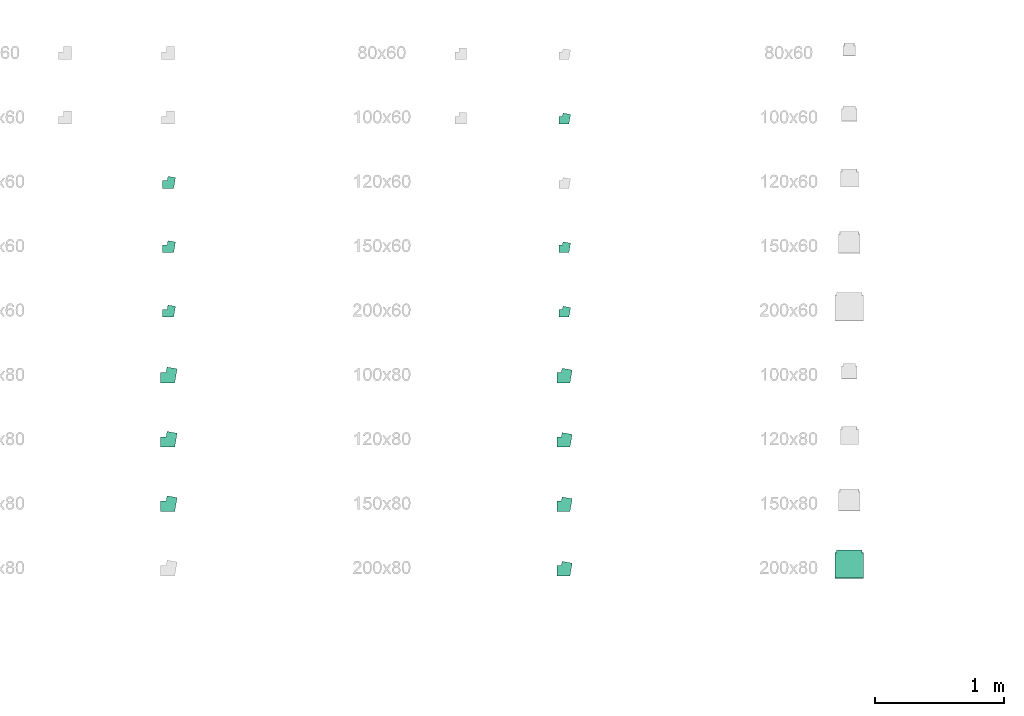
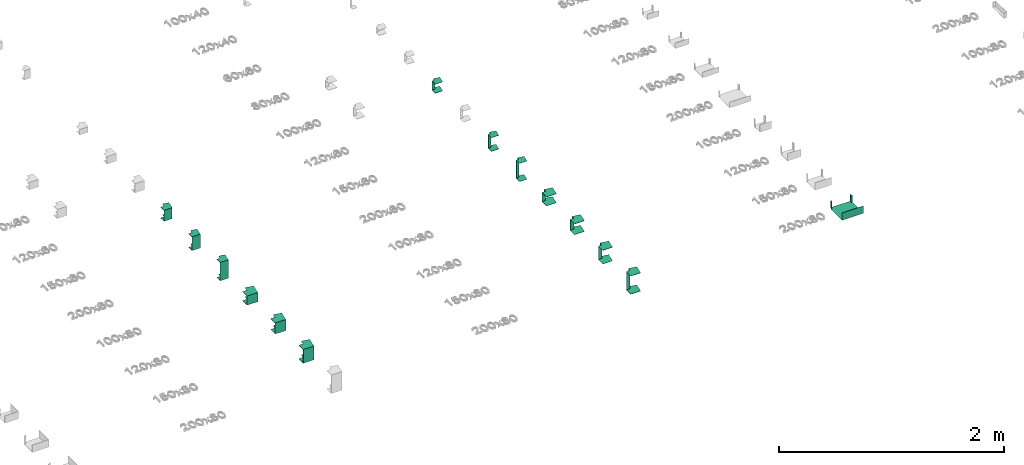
# One storey, part 6 of 71: 14 flow fittings.
"""IFC2X3 building model written with IfcOpenShell, lengths in millimetres."""

from ifc_helpers import new_model, entity, si_unit, converted_unit, derived_unit, direction, frame, origin, place, context, subcontext, project, spatial, faceted_brep, source, transform, mapped, material, type_object, type_shapes, element, save


model = new_model("IFC2X3")

# Units and contexts
model_context = context("Model", 3, precision=0.01, world=origin(), true_north=direction((6.12303176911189e-17, 1.0)))
body_context = subcontext(model_context, "Body", "Model", "MODEL_VIEW")
ifc_project = project(units=[si_unit("LENGTHUNIT", "METRE", prefix="MILLI"), si_unit("AREAUNIT", "SQUARE_METRE"), si_unit("VOLUMEUNIT", "CUBIC_METRE"), converted_unit("PLANEANGLEUNIT", "DEGREE", entity("IfcRatioMeasure", 0.0174532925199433), si_unit("PLANEANGLEUNIT", "RADIAN"), dimensions=[0, 0, 0, 0, 0, 0, 0]), si_unit("MASSUNIT", "GRAM", prefix="KILO"), derived_unit("MASSDENSITYUNIT", [(si_unit("MASSUNIT", "GRAM", prefix="KILO"), 1), (si_unit("LENGTHUNIT", "METRE"), -3)]), si_unit("TIMEUNIT", "SECOND"), si_unit("FREQUENCYUNIT", "HERTZ"), si_unit("THERMODYNAMICTEMPERATUREUNIT", "DEGREE_CELSIUS"), derived_unit("THERMALTRANSMITTANCEUNIT", [(si_unit("MASSUNIT", "GRAM", prefix="KILO"), 1), (si_unit("THERMODYNAMICTEMPERATUREUNIT", "KELVIN"), -1), (si_unit("TIMEUNIT", "SECOND"), -3)]), derived_unit("VOLUMETRICFLOWRATEUNIT", [(si_unit("LENGTHUNIT", "METRE"), 3), (si_unit("TIMEUNIT", "SECOND"), -1)]), si_unit("ELECTRICCURRENTUNIT", "AMPERE"), si_unit("ELECTRICVOLTAGEUNIT", "VOLT"), si_unit("POWERUNIT", "WATT"), si_unit("FORCEUNIT", "NEWTON", prefix="KILO"), si_unit("ILLUMINANCEUNIT", "LUX"), si_unit("LUMINOUSFLUXUNIT", "LUMEN"), si_unit("LUMINOUSINTENSITYUNIT", "CANDELA"), derived_unit("USERDEFINED", [(si_unit("MASSUNIT", "GRAM", prefix="KILO"), -1), (si_unit("LENGTHUNIT", "METRE"), -2), (si_unit("TIMEUNIT", "SECOND"), 3), (si_unit("LUMINOUSFLUXUNIT", "LUMEN"), 1)]), derived_unit("LINEARVELOCITYUNIT", [(si_unit("LENGTHUNIT", "METRE"), 1), (si_unit("TIMEUNIT", "SECOND"), -1)]), si_unit("PRESSUREUNIT", "PASCAL"), derived_unit("USERDEFINED", [(si_unit("LENGTHUNIT", "METRE"), -2), (si_unit("MASSUNIT", "GRAM", prefix="KILO"), 1), (si_unit("TIMEUNIT", "SECOND"), -2)])], contexts=[model_context])

# Site, building, storey
site_placement = place(None, origin())
site = spatial("IfcSite", under=ifc_project, at=site_placement, Name="Default", CompositionType="ELEMENT")
building_placement = place(site_placement, origin())
building = spatial("IfcBuilding", under=site, at=building_placement, Name="Наименование здания", CompositionType="ELEMENT")
storey_placement = place(building_placement, origin())
storey = spatial("IfcBuildingStorey", under=building, at=storey_placement, Name="Этаж 01", CompositionType="ELEMENT", Elevation=0.0)

# Flow fittings
ifc_material = material(Name="DKC_Пластик_Белый")
cable_carrier_fitting_type_1 = type_object("IfcCableCarrierFittingType", Name="Угол внутренний_DKC", PredefinedType="NOTDEFINED", material=ifc_material)
shared_shape_1 = source(origin(), body_context, "Body", "Brep", [
    faceted_brep([(-59.5414760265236, -30.0, 60.0), (-59.5414760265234, 30.0, 60.0), (-59.5414760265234, 30.0, 57.5000000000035), (-59.5414760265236, -27.4999999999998, 57.5000000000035), (-59.5414760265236, -27.4999999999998, -57.4999999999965), (-59.5414760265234, 30.0, -57.4999999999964), (-59.5414760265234, 30.0, -60.0), (-59.5414760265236, -30.0, -60.0), (39.8835013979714, 53.4274618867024, 60.0), (39.8835013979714, 53.4274618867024, -60.0), (-19.2049637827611, 63.8463525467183, -60.0), (-19.2049637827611, 63.8463525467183, -57.4999999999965), (37.4214820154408, 53.8615823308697, -57.4999999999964), (37.4214820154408, 53.8615823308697, 57.5000000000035), (-19.2049637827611, 63.8463525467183, 57.5000000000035), (-19.2049637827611, 63.8463525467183, 60.0), (25.172988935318, -30.0, 60.0), (-25.1729889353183, 30.0, 60.0), (-25.1729889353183, 30.0, 57.5000000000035), (23.0752398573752, -27.5000000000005, 57.5000000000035), (23.0752398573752, -27.5000000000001, -57.4999999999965), (-25.1729889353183, 30.0, -57.4999999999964), (-25.1729889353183, 30.0, -60.0), (25.1729889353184, -30.0, -60.0)], [[[0, 1, 2, 3, 4, 5, 6, 7]], [[8, 9, 10, 11, 12, 13, 14, 15]], [[1, 0, 16, 8, 15, 17]], [[2, 1, 17, 18]], [[3, 2, 18, 14, 13, 19]], [[4, 3, 19, 20]], [[5, 4, 20, 12, 11, 21]], [[6, 5, 21, 22]], [[7, 6, 22, 10, 9, 23]], [[0, 7, 23, 16]], [[18, 17, 15, 14]], [[20, 19, 13, 12]], [[22, 21, 11, 10]], [[16, 23, 9, 8]]]),
])
type_shapes(cable_carrier_fitting_type_1, [shared_shape_1])
flow_fitting_1_placement = place(storey_placement, frame((16600.2023027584, -1439.2088172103, 0.0)))
element("IfcFlowFitting", 1, at=flow_fitting_1_placement, inside=storey, type_object=cable_carrier_fitting_type_1, material=ifc_material, Name="КНС_УголВнутренний_ILC_DKC:Угол внутренний_DKC", ObjectType="Угол внутренний_DKC", context=body_context, shape_type="MappedRepresentation", body=[
    mapped(shared_shape_1, transform((0.0, 0.0, 0.0), scale=1.0)),
])
cable_carrier_fitting_type_2 = type_object("IfcCableCarrierFittingType", Name="Угол внутренний_DKC", PredefinedType="NOTDEFINED", material=ifc_material)
shared_shape_2 = source(origin(), body_context, "Body", "Brep", [
    faceted_brep([(-59.5414760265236, -30.0, 75.0), (-59.5414760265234, 30.0, 75.0), (-59.5414760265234, 30.0, 72.5000000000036), (-59.5414760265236, -27.4999999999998, 72.5000000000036), (-59.5414760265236, -27.4999999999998, -72.4999999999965), (-59.5414760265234, 30.0, -72.4999999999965), (-59.5414760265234, 30.0, -75.0), (-59.5414760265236, -30.0, -75.0), (39.8835013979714, 53.4274618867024, 75.0), (39.8835013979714, 53.4274618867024, -75.0), (-19.2049637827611, 63.8463525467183, -75.0), (-19.2049637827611, 63.8463525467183, -72.4999999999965), (37.4214820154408, 53.8615823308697, -72.4999999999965), (37.4214820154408, 53.8615823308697, 72.5000000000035), (-19.2049637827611, 63.8463525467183, 72.5000000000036), (-19.2049637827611, 63.8463525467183, 75.0), (25.172988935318, -30.0, 75.0), (-25.1729889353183, 30.0, 75.0), (-25.1729889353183, 30.0, 72.5000000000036), (23.0752398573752, -27.5000000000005, 72.5000000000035), (23.0752398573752, -27.5000000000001, -72.4999999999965), (-25.1729889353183, 30.0, -72.4999999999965), (-25.1729889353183, 30.0, -75.0), (25.1729889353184, -30.0, -75.0)], [[[0, 1, 2, 3, 4, 5, 6, 7]], [[8, 9, 10, 11, 12, 13, 14, 15]], [[1, 0, 16, 8, 15, 17]], [[2, 1, 17, 18]], [[3, 2, 18, 14, 13, 19]], [[4, 3, 19, 20]], [[5, 4, 20, 12, 11, 21]], [[6, 5, 21, 22]], [[7, 6, 22, 10, 9, 23]], [[0, 7, 23, 16]], [[18, 17, 15, 14]], [[20, 19, 13, 12]], [[22, 21, 11, 10]], [[16, 23, 9, 8]]]),
])
type_shapes(cable_carrier_fitting_type_2, [shared_shape_2])
flow_fitting_2_placement = place(storey_placement, frame((16600.2023027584, -1939.2088172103, 0.0)))
element("IfcFlowFitting", 2, at=flow_fitting_2_placement, inside=storey, type_object=cable_carrier_fitting_type_2, material=ifc_material, Name="КНС_УголВнутренний_ILC_DKC:Угол внутренний_DKC", ObjectType="Угол внутренний_DKC", context=body_context, shape_type="MappedRepresentation", body=[
    mapped(shared_shape_2, transform((0.0, 0.0, 0.0), scale=1.0)),
])
cable_carrier_fitting_type_3 = type_object("IfcCableCarrierFittingType", Name="Угол внутренний_DKC", PredefinedType="NOTDEFINED", material=ifc_material)
shared_shape_3 = source(origin(), body_context, "Body", "Brep", [
    faceted_brep([(-59.5414760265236, -30.0, 100.0), (-59.5414760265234, 30.0, 100.0), (-59.5414760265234, 30.0, 97.5000000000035), (-59.5414760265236, -27.4999999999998, 97.5000000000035), (-59.5414760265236, -27.4999999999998, -97.4999999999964), (-59.5414760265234, 30.0, -97.4999999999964), (-59.5414760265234, 30.0, -100.0), (-59.5414760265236, -30.0, -100.0), (39.8835013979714, 53.4274618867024, 100.0), (39.8835013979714, 53.4274618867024, -100.0), (-19.2049637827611, 63.8463525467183, -100.0), (-19.2049637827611, 63.8463525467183, -97.4999999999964), (37.4214820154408, 53.8615823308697, -97.4999999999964), (37.4214820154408, 53.8615823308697, 97.5000000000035), (-19.2049637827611, 63.8463525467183, 97.5000000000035), (-19.2049637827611, 63.8463525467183, 100.0), (25.172988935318, -30.0, 100.0), (-25.1729889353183, 30.0, 100.0), (-25.1729889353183, 30.0, 97.5000000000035), (23.0752398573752, -27.5000000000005, 97.5000000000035), (23.0752398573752, -27.5000000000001, -97.4999999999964), (-25.1729889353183, 30.0, -97.4999999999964), (-25.1729889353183, 30.0, -100.0), (25.1729889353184, -30.0, -100.0)], [[[0, 1, 2, 3, 4, 5, 6, 7]], [[8, 9, 10, 11, 12, 13, 14, 15]], [[1, 0, 16, 8, 15, 17]], [[2, 1, 17, 18]], [[3, 2, 18, 14, 13, 19]], [[4, 3, 19, 20]], [[5, 4, 20, 12, 11, 21]], [[6, 5, 21, 22]], [[7, 6, 22, 10, 9, 23]], [[0, 7, 23, 16]], [[18, 17, 15, 14]], [[20, 19, 13, 12]], [[22, 21, 11, 10]], [[16, 23, 9, 8]]]),
])
type_shapes(cable_carrier_fitting_type_3, [shared_shape_3])
flow_fitting_3_placement = place(storey_placement, frame((16600.2023027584, -2439.2088172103, 0.0)))
element("IfcFlowFitting", 3, at=flow_fitting_3_placement, inside=storey, type_object=cable_carrier_fitting_type_3, material=ifc_material, Name="КНС_УголВнутренний_ILC_DKC:Угол внутренний_DKC", ObjectType="Угол внутренний_DKC", context=body_context, shape_type="MappedRepresentation", body=[
    mapped(shared_shape_3, transform((0.0, 0.0, 0.0), scale=1.0)),
])
cable_carrier_fitting_type_4 = type_object("IfcCableCarrierFittingType", Name="Угол внутренний_DKC", PredefinedType="NOTDEFINED", material=ifc_material)
shared_shape_4 = source(origin(), body_context, "Body", "Brep", [
    faceted_brep([(-76.3234686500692, -40.0, 50.0), (-76.323468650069, 40.0, 50.0), (-76.323468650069, 40.0, 47.5000000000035), (-76.3234686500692, -37.4999999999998, 47.5000000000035), (-76.3234686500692, -37.4999999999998, -47.4999999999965), (-76.323468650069, 40.0, -47.4999999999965), (-76.323468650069, 40.0, -50.0), (-76.3234686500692, -40.0, -50.0), (52.645741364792, 68.2180165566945, 50.0), (52.645741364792, 68.2180165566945, -50.0), (-26.1388788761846, 82.109870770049, -50.0), (-26.1388788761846, 82.109870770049, -47.4999999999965), (50.1837219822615, 68.6521370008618, -47.4999999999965), (50.1837219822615, 68.6521370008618, 47.5000000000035), (-26.1388788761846, 82.109870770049, 47.5000000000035), (-26.1388788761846, 82.109870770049, 50.0), (33.5639852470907, -40.0, 50.0), (-33.5639852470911, 40.0, 50.0), (-33.5639852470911, 40.0, 47.5000000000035), (31.4662361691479, -37.5000000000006, 47.5000000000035), (31.4662361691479, -37.5000000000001, -47.4999999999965), (-33.5639852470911, 40.0, -47.4999999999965), (-33.5639852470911, 40.0, -50.0), (33.5639852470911, -40.0, -50.0)], [[[0, 1, 2, 3, 4, 5, 6, 7]], [[8, 9, 10, 11, 12, 13, 14, 15]], [[1, 0, 16, 8, 15, 17]], [[2, 1, 17, 18]], [[3, 2, 18, 14, 13, 19]], [[4, 3, 19, 20]], [[5, 4, 20, 12, 11, 21]], [[6, 5, 21, 22]], [[7, 6, 22, 10, 9, 23]], [[0, 7, 23, 16]], [[18, 17, 15, 14]], [[20, 19, 13, 12]], [[22, 21, 11, 10]], [[16, 23, 9, 8]]]),
])
type_shapes(cable_carrier_fitting_type_4, [shared_shape_4])
flow_fitting_4_placement = place(storey_placement, frame((16600.2023027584, -2939.2088172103, 0.0)))
element("IfcFlowFitting", 4, at=flow_fitting_4_placement, inside=storey, type_object=cable_carrier_fitting_type_4, material=ifc_material, Name="КНС_УголВнутренний_ILC_DKC:Угол внутренний_DKC", ObjectType="Угол внутренний_DKC", context=body_context, shape_type="MappedRepresentation", body=[
    mapped(shared_shape_4, transform((0.0, 0.0, 0.0), scale=1.0)),
])
cable_carrier_fitting_type_5 = type_object("IfcCableCarrierFittingType", Name="Угол внутренний_DKC", PredefinedType="NOTDEFINED", material=ifc_material)
shared_shape_5 = source(origin(), body_context, "Body", "Brep", [
    faceted_brep([(-76.3234686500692, -40.0, 60.0), (-76.323468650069, 40.0, 60.0), (-76.323468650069, 40.0, 57.5000000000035), (-76.3234686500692, -37.4999999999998, 57.5000000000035), (-76.3234686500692, -37.4999999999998, -57.4999999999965), (-76.323468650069, 40.0, -57.4999999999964), (-76.323468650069, 40.0, -60.0), (-76.3234686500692, -40.0, -60.0), (52.645741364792, 68.2180165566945, 60.0), (52.645741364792, 68.2180165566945, -60.0), (-26.1388788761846, 82.109870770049, -60.0), (-26.1388788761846, 82.109870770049, -57.4999999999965), (50.1837219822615, 68.6521370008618, -57.4999999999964), (50.1837219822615, 68.6521370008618, 57.5000000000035), (-26.1388788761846, 82.109870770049, 57.5000000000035), (-26.1388788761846, 82.109870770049, 60.0), (33.5639852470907, -40.0, 60.0), (-33.5639852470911, 40.0, 60.0), (-33.5639852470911, 40.0, 57.5000000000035), (31.4662361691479, -37.5000000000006, 57.5000000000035), (31.4662361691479, -37.5000000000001, -57.4999999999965), (-33.5639852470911, 40.0, -57.4999999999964), (-33.5639852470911, 40.0, -60.0), (33.5639852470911, -40.0, -60.0)], [[[0, 1, 2, 3, 4, 5, 6, 7]], [[8, 9, 10, 11, 12, 13, 14, 15]], [[1, 0, 16, 8, 15, 17]], [[2, 1, 17, 18]], [[3, 2, 18, 14, 13, 19]], [[4, 3, 19, 20]], [[5, 4, 20, 12, 11, 21]], [[6, 5, 21, 22]], [[7, 6, 22, 10, 9, 23]], [[0, 7, 23, 16]], [[18, 17, 15, 14]], [[20, 19, 13, 12]], [[22, 21, 11, 10]], [[16, 23, 9, 8]]]),
])
type_shapes(cable_carrier_fitting_type_5, [shared_shape_5])
flow_fitting_5_placement = place(storey_placement, frame((16600.2023027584, -3439.2088172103, 0.0)))
element("IfcFlowFitting", 5, at=flow_fitting_5_placement, inside=storey, type_object=cable_carrier_fitting_type_5, material=ifc_material, Name="КНС_УголВнутренний_ILC_DKC:Угол внутренний_DKC", ObjectType="Угол внутренний_DKC", context=body_context, shape_type="MappedRepresentation", body=[
    mapped(shared_shape_5, transform((0.0, 0.0, 0.0), scale=1.0)),
])
cable_carrier_fitting_type_6 = type_object("IfcCableCarrierFittingType", Name="Угол внутренний_DKC", PredefinedType="NOTDEFINED", material=ifc_material)
shared_shape_6 = source(origin(), body_context, "Body", "Brep", [
    faceted_brep([(-76.3234686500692, -40.0, 75.0), (-76.323468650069, 40.0, 75.0), (-76.323468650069, 40.0, 72.5000000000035), (-76.3234686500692, -37.4999999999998, 72.5000000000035), (-76.3234686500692, -37.4999999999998, -72.4999999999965), (-76.323468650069, 40.0, -72.4999999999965), (-76.323468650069, 40.0, -75.0), (-76.3234686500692, -40.0, -75.0), (52.645741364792, 68.2180165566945, 75.0), (52.645741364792, 68.2180165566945, -75.0), (-26.1388788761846, 82.109870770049, -75.0), (-26.1388788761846, 82.109870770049, -72.4999999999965), (50.1837219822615, 68.6521370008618, -72.4999999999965), (50.1837219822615, 68.6521370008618, 72.5000000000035), (-26.1388788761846, 82.109870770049, 72.5000000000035), (-26.1388788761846, 82.109870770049, 75.0), (33.5639852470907, -40.0, 75.0), (-33.5639852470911, 40.0, 75.0), (-33.5639852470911, 40.0, 72.5000000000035), (31.4662361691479, -37.5000000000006, 72.5000000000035), (31.4662361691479, -37.5000000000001, -72.4999999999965), (-33.5639852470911, 40.0, -72.4999999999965), (-33.5639852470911, 40.0, -75.0), (33.5639852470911, -40.0, -75.0)], [[[0, 1, 2, 3, 4, 5, 6, 7]], [[8, 9, 10, 11, 12, 13, 14, 15]], [[1, 0, 16, 8, 15, 17]], [[2, 1, 17, 18]], [[3, 2, 18, 14, 13, 19]], [[4, 3, 19, 20]], [[5, 4, 20, 12, 11, 21]], [[6, 5, 21, 22]], [[7, 6, 22, 10, 9, 23]], [[0, 7, 23, 16]], [[18, 17, 15, 14]], [[20, 19, 13, 12]], [[22, 21, 11, 10]], [[16, 23, 9, 8]]]),
])
type_shapes(cable_carrier_fitting_type_6, [shared_shape_6])
flow_fitting_6_placement = place(storey_placement, frame((16600.2023027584, -3939.2088172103, 0.0)))
element("IfcFlowFitting", 6, at=flow_fitting_6_placement, inside=storey, type_object=cable_carrier_fitting_type_6, material=ifc_material, Name="КНС_УголВнутренний_ILC_DKC:Угол внутренний_DKC", ObjectType="Угол внутренний_DKC", context=body_context, shape_type="MappedRepresentation", body=[
    mapped(shared_shape_6, transform((0.0, 0.0, 0.0), scale=1.0)),
])
cable_carrier_fitting_type_7 = type_object("IfcCableCarrierFittingType", Name="Угол внешний_DKC", PredefinedType="NOTDEFINED", material=ifc_material)
shared_shape_7 = source(origin(), body_context, "Body", "Brep", [
    faceted_brep([(-50.3459778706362, 30.0, 50.0), (-50.3459778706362, 30.0, -50.0), (-50.3459778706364, -30.0, -50.0), (-50.3459778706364, -30.0, -47.4999999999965), (-50.3459778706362, 27.5000000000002, -47.4999999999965), (-50.3459778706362, 27.5000000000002, 47.5000000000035), (-50.3459778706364, -30.0, 47.5000000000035), (-50.3459778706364, -30.0, 50.0), (-20.8017452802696, 54.7905546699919, 50.0), (38.2867199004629, 44.371664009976, 50.0), (38.2867199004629, 44.371664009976, 47.5000000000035), (-18.3397258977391, 54.3564342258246, 47.5000000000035), (-18.3397258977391, 54.3564342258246, -47.4999999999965), (38.2867199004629, 44.371664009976, -47.4999999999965), (38.2867199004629, 44.371664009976, -50.0), (-20.8017452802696, 54.7905546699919, -50.0), (-25.1729889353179, 30.0, 50.0), (-25.1729889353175, 30.0, -50.0), (25.1729889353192, -30.0, -50.0), (25.1729889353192, -30.0, -47.4999999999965), (-23.0752398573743, 27.4999999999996, -47.4999999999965), (-23.0752398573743, 27.5000000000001, 47.5000000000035), (25.1729889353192, -30.0, 47.5000000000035), (25.1729889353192, -30.0, 50.0)], [[[0, 1, 2, 3, 4, 5, 6, 7]], [[8, 9, 10, 11, 12, 13, 14, 15]], [[1, 0, 16, 17]], [[2, 1, 17, 15, 14, 18]], [[3, 2, 18, 19]], [[4, 3, 19, 13, 12, 20]], [[5, 4, 20, 21]], [[6, 5, 21, 11, 10, 22]], [[7, 6, 22, 23]], [[0, 7, 23, 9, 8, 16]], [[17, 16, 8, 15]], [[19, 18, 14, 13]], [[21, 20, 12, 11]], [[23, 22, 10, 9]]]),
])
type_shapes(cable_carrier_fitting_type_7, [shared_shape_7])
flow_fitting_7_placement = place(storey_placement, frame((19670.2876691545, -939.208817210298, 0.0)))
element("IfcFlowFitting", 7, at=flow_fitting_7_placement, inside=storey, type_object=cable_carrier_fitting_type_7, material=ifc_material, Name="КНС_УголВнешний_ILC_DKC:Угол внешний_DKC", ObjectType="Угол внешний_DKC", context=body_context, shape_type="MappedRepresentation", body=[
    mapped(shared_shape_7, transform((0.0, 0.0, 0.0), scale=1.0)),
])
cable_carrier_fitting_type_8 = type_object("IfcCableCarrierFittingType", Name="Угол внешний_DKC", PredefinedType="NOTDEFINED", material=ifc_material)
shared_shape_8 = source(origin(), body_context, "Body", "Brep", [
    faceted_brep([(-50.3459778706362, 30.0, 75.0), (-50.3459778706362, 30.0, -75.0), (-50.3459778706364, -30.0, -75.0), (-50.3459778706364, -30.0, -72.4999999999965), (-50.3459778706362, 27.5000000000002, -72.4999999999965), (-50.3459778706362, 27.5000000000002, 72.5000000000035), (-50.3459778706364, -30.0, 72.5000000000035), (-50.3459778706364, -30.0, 75.0), (-20.8017452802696, 54.7905546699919, 75.0), (38.2867199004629, 44.371664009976, 75.0), (38.2867199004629, 44.371664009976, 72.5000000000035), (-18.3397258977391, 54.3564342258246, 72.5000000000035), (-18.3397258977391, 54.3564342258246, -72.4999999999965), (38.2867199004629, 44.371664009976, -72.4999999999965), (38.2867199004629, 44.371664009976, -75.0), (-20.8017452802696, 54.7905546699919, -75.0), (-25.1729889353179, 30.0, 75.0), (-25.1729889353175, 30.0, -75.0), (25.1729889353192, -30.0, -75.0), (25.1729889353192, -30.0, -72.4999999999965), (-23.0752398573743, 27.4999999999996, -72.4999999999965), (-23.0752398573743, 27.5000000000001, 72.5000000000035), (25.1729889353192, -30.0, 72.5000000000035), (25.1729889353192, -30.0, 75.0)], [[[0, 1, 2, 3, 4, 5, 6, 7]], [[8, 9, 10, 11, 12, 13, 14, 15]], [[1, 0, 16, 17]], [[2, 1, 17, 15, 14, 18]], [[3, 2, 18, 19]], [[4, 3, 19, 13, 12, 20]], [[5, 4, 20, 21]], [[6, 5, 21, 11, 10, 22]], [[7, 6, 22, 23]], [[0, 7, 23, 9, 8, 16]], [[17, 16, 8, 15]], [[19, 18, 14, 13]], [[21, 20, 12, 11]], [[23, 22, 10, 9]]]),
])
type_shapes(cable_carrier_fitting_type_8, [shared_shape_8])
flow_fitting_8_placement = place(storey_placement, frame((19670.2876691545, -1939.2088172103, 0.0)))
element("IfcFlowFitting", 8, at=flow_fitting_8_placement, inside=storey, type_object=cable_carrier_fitting_type_8, material=ifc_material, Name="КНС_УголВнешний_ILC_DKC:Угол внешний_DKC", ObjectType="Угол внешний_DKC", context=body_context, shape_type="MappedRepresentation", body=[
    mapped(shared_shape_8, transform((0.0, 0.0, 0.0), scale=1.0)),
])
cable_carrier_fitting_type_9 = type_object("IfcCableCarrierFittingType", Name="Угол внешний_DKC", PredefinedType="NOTDEFINED", material=ifc_material)
shared_shape_9 = source(origin(), body_context, "Body", "Brep", [
    faceted_brep([(-50.3459778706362, 30.0, 100.0), (-50.3459778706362, 30.0, -100.0), (-50.3459778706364, -30.0, -100.0), (-50.3459778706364, -30.0, -97.4999999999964), (-50.3459778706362, 27.5000000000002, -97.4999999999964), (-50.3459778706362, 27.5000000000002, 97.5000000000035), (-50.3459778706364, -30.0, 97.5000000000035), (-50.3459778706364, -30.0, 100.0), (-20.8017452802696, 54.7905546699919, 100.0), (38.2867199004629, 44.371664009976, 100.0), (38.2867199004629, 44.371664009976, 97.5000000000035), (-18.3397258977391, 54.3564342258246, 97.5000000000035), (-18.3397258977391, 54.3564342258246, -97.4999999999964), (38.2867199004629, 44.371664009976, -97.4999999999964), (38.2867199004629, 44.371664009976, -100.0), (-20.8017452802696, 54.7905546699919, -100.0), (-25.1729889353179, 30.0, 100.0), (-25.1729889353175, 30.0, -100.0), (25.1729889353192, -30.0, -100.0), (25.1729889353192, -30.0, -97.4999999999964), (-23.0752398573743, 27.4999999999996, -97.4999999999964), (-23.0752398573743, 27.5000000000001, 97.5000000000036), (25.1729889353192, -30.0, 97.5000000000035), (25.1729889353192, -30.0, 100.0)], [[[0, 1, 2, 3, 4, 5, 6, 7]], [[8, 9, 10, 11, 12, 13, 14, 15]], [[1, 0, 16, 17]], [[2, 1, 17, 15, 14, 18]], [[3, 2, 18, 19]], [[4, 3, 19, 13, 12, 20]], [[5, 4, 20, 21]], [[6, 5, 21, 11, 10, 22]], [[7, 6, 22, 23]], [[0, 7, 23, 9, 8, 16]], [[17, 16, 8, 15]], [[19, 18, 14, 13]], [[21, 20, 12, 11]], [[23, 22, 10, 9]]]),
])
type_shapes(cable_carrier_fitting_type_9, [shared_shape_9])
flow_fitting_9_placement = place(storey_placement, frame((19670.2876691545, -2439.2088172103, 0.0)))
element("IfcFlowFitting", 9, at=flow_fitting_9_placement, inside=storey, type_object=cable_carrier_fitting_type_9, material=ifc_material, Name="КНС_УголВнешний_ILC_DKC:Угол внешний_DKC", ObjectType="Угол внешний_DKC", context=body_context, shape_type="MappedRepresentation", body=[
    mapped(shared_shape_9, transform((0.0, 0.0, 0.0), scale=1.0)),
])
cable_carrier_fitting_type_10 = type_object("IfcCableCarrierFittingType", Name="Угол внешний_DKC", PredefinedType="NOTDEFINED", material=ifc_material)
shared_shape_10 = source(origin(), body_context, "Body", "Brep", [
    faceted_brep([(-67.1279704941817, 40.0, 50.0), (-67.1279704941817, 40.0, -50.0), (-67.1279704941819, -40.0, -50.0), (-67.1279704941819, -40.0, -47.4999999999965), (-67.1279704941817, 37.5000000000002, -47.4999999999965), (-67.1279704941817, 37.5000000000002, 47.5000000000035), (-67.1279704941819, -40.0, 47.5000000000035), (-67.1279704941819, -40.0, 50.0), (-27.7356603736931, 73.0540728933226, 50.0), (51.0489598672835, 59.1622186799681, 50.0), (51.0489598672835, 59.1622186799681, 47.5000000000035), (-25.2736409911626, 72.6199524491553, 47.5000000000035), (-25.2736409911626, 72.6199524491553, -47.4999999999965), (51.0489598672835, 59.1622186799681, -47.4999999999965), (51.0489598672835, 59.1622186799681, -50.0), (-27.7356603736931, 73.0540728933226, -50.0), (-33.5639852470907, 40.0, 50.0), (-33.5639852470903, 40.0, -50.0), (33.563985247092, -40.0, -50.0), (33.563985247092, -40.0, -47.4999999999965), (-31.4662361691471, 37.4999999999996, -47.4999999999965), (-31.4662361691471, 37.5000000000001, 47.5000000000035), (33.563985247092, -40.0, 47.5000000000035), (33.563985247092, -40.0, 50.0)], [[[0, 1, 2, 3, 4, 5, 6, 7]], [[8, 9, 10, 11, 12, 13, 14, 15]], [[1, 0, 16, 17]], [[2, 1, 17, 15, 14, 18]], [[3, 2, 18, 19]], [[4, 3, 19, 13, 12, 20]], [[5, 4, 20, 21]], [[6, 5, 21, 11, 10, 22]], [[7, 6, 22, 23]], [[0, 7, 23, 9, 8, 16]], [[17, 16, 8, 15]], [[19, 18, 14, 13]], [[21, 20, 12, 11]], [[23, 22, 10, 9]]]),
])
type_shapes(cable_carrier_fitting_type_10, [shared_shape_10])
flow_fitting_10_placement = place(storey_placement, frame((19670.2876691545, -2939.2088172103, 0.0)))
element("IfcFlowFitting", 10, at=flow_fitting_10_placement, inside=storey, type_object=cable_carrier_fitting_type_10, material=ifc_material, Name="КНС_УголВнешний_ILC_DKC:Угол внешний_DKC", ObjectType="Угол внешний_DKC", context=body_context, shape_type="MappedRepresentation", body=[
    mapped(shared_shape_10, transform((0.0, 0.0, 0.0), scale=1.0)),
])
cable_carrier_fitting_type_11 = type_object("IfcCableCarrierFittingType", Name="Угол внешний_DKC", PredefinedType="NOTDEFINED", material=ifc_material)
shared_shape_11 = source(origin(), body_context, "Body", "Brep", [
    faceted_brep([(-67.1279704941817, 40.0, 60.0), (-67.1279704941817, 40.0, -60.0), (-67.1279704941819, -40.0, -60.0), (-67.1279704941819, -40.0, -57.4999999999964), (-67.1279704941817, 37.5000000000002, -57.4999999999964), (-67.1279704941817, 37.5000000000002, 57.5000000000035), (-67.1279704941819, -40.0, 57.5000000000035), (-67.1279704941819, -40.0, 60.0), (-27.7356603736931, 73.0540728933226, 60.0), (51.0489598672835, 59.1622186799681, 60.0), (51.0489598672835, 59.1622186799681, 57.5000000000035), (-25.2736409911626, 72.6199524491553, 57.5000000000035), (-25.2736409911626, 72.6199524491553, -57.4999999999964), (51.0489598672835, 59.1622186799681, -57.4999999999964), (51.0489598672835, 59.1622186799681, -60.0), (-27.7356603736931, 73.0540728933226, -60.0), (-33.5639852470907, 40.0, 60.0), (-33.5639852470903, 40.0, -60.0), (33.563985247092, -40.0, -60.0), (33.563985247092, -40.0, -57.4999999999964), (-31.4662361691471, 37.4999999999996, -57.4999999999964), (-31.4662361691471, 37.5000000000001, 57.5000000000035), (33.563985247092, -40.0, 57.5000000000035), (33.563985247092, -40.0, 60.0)], [[[0, 1, 2, 3, 4, 5, 6, 7]], [[8, 9, 10, 11, 12, 13, 14, 15]], [[1, 0, 16, 17]], [[2, 1, 17, 15, 14, 18]], [[3, 2, 18, 19]], [[4, 3, 19, 13, 12, 20]], [[5, 4, 20, 21]], [[6, 5, 21, 11, 10, 22]], [[7, 6, 22, 23]], [[0, 7, 23, 9, 8, 16]], [[17, 16, 8, 15]], [[19, 18, 14, 13]], [[21, 20, 12, 11]], [[23, 22, 10, 9]]]),
])
type_shapes(cable_carrier_fitting_type_11, [shared_shape_11])
flow_fitting_11_placement = place(storey_placement, frame((19670.2876691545, -3439.2088172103, 0.0)))
element("IfcFlowFitting", 11, at=flow_fitting_11_placement, inside=storey, type_object=cable_carrier_fitting_type_11, material=ifc_material, Name="КНС_УголВнешний_ILC_DKC:Угол внешний_DKC", ObjectType="Угол внешний_DKC", context=body_context, shape_type="MappedRepresentation", body=[
    mapped(shared_shape_11, transform((0.0, 0.0, 0.0), scale=1.0)),
])
cable_carrier_fitting_type_12 = type_object("IfcCableCarrierFittingType", Name="Угол внешний_DKC", PredefinedType="NOTDEFINED", material=ifc_material)
shared_shape_12 = source(origin(), body_context, "Body", "Brep", [
    faceted_brep([(-67.1279704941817, 40.0, 75.0), (-67.1279704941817, 40.0, -75.0), (-67.1279704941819, -40.0, -75.0), (-67.1279704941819, -40.0, -72.4999999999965), (-67.1279704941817, 37.5000000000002, -72.4999999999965), (-67.1279704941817, 37.5000000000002, 72.5000000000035), (-67.1279704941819, -40.0, 72.5000000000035), (-67.1279704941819, -40.0, 75.0), (-27.7356603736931, 73.0540728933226, 75.0), (51.0489598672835, 59.1622186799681, 75.0), (51.0489598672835, 59.1622186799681, 72.5000000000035), (-25.2736409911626, 72.6199524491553, 72.5000000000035), (-25.2736409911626, 72.6199524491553, -72.4999999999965), (51.0489598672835, 59.1622186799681, -72.4999999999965), (51.0489598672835, 59.1622186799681, -75.0), (-27.7356603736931, 73.0540728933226, -75.0), (-33.5639852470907, 40.0, 75.0), (-33.5639852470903, 40.0, -75.0), (33.563985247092, -40.0, -75.0), (33.563985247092, -40.0, -72.4999999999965), (-31.4662361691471, 37.4999999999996, -72.4999999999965), (-31.4662361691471, 37.5000000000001, 72.5000000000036), (33.563985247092, -40.0, 72.5000000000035), (33.563985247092, -40.0, 75.0)], [[[0, 1, 2, 3, 4, 5, 6, 7]], [[8, 9, 10, 11, 12, 13, 14, 15]], [[1, 0, 16, 17]], [[2, 1, 17, 15, 14, 18]], [[3, 2, 18, 19]], [[4, 3, 19, 13, 12, 20]], [[5, 4, 20, 21]], [[6, 5, 21, 11, 10, 22]], [[7, 6, 22, 23]], [[0, 7, 23, 9, 8, 16]], [[17, 16, 8, 15]], [[19, 18, 14, 13]], [[21, 20, 12, 11]], [[23, 22, 10, 9]]]),
])
type_shapes(cable_carrier_fitting_type_12, [shared_shape_12])
flow_fitting_12_placement = place(storey_placement, frame((19670.2876691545, -3939.2088172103, 0.0)))
element("IfcFlowFitting", 12, at=flow_fitting_12_placement, inside=storey, type_object=cable_carrier_fitting_type_12, material=ifc_material, Name="КНС_УголВнешний_ILC_DKC:Угол внешний_DKC", ObjectType="Угол внешний_DKC", context=body_context, shape_type="MappedRepresentation", body=[
    mapped(shared_shape_12, transform((0.0, 0.0, 0.0), scale=1.0)),
])
cable_carrier_fitting_type_13 = type_object("IfcCableCarrierFittingType", Name="Угол внешний_DKC", PredefinedType="NOTDEFINED", material=ifc_material)
shared_shape_13 = source(origin(), body_context, "Body", "Brep", [
    faceted_brep([(-67.1279704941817, 40.0, 100.0), (-67.1279704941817, 40.0, -100.0), (-67.1279704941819, -40.0, -100.0), (-67.1279704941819, -40.0, -97.4999999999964), (-67.1279704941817, 37.5000000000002, -97.4999999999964), (-67.1279704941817, 37.5000000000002, 97.5000000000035), (-67.1279704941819, -40.0, 97.5000000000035), (-67.1279704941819, -40.0, 100.0), (-27.7356603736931, 73.0540728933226, 100.0), (51.0489598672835, 59.1622186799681, 100.0), (51.0489598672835, 59.1622186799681, 97.5000000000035), (-25.2736409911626, 72.6199524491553, 97.5000000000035), (-25.2736409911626, 72.6199524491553, -97.4999999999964), (51.0489598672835, 59.1622186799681, -97.4999999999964), (51.0489598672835, 59.1622186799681, -100.0), (-27.7356603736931, 73.0540728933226, -100.0), (-33.5639852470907, 40.0, 100.0), (-33.5639852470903, 40.0, -100.0), (33.563985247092, -40.0, -100.0), (33.563985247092, -40.0, -97.4999999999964), (-31.4662361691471, 37.4999999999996, -97.4999999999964), (-31.4662361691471, 37.5000000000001, 97.5000000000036), (33.563985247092, -40.0, 97.5000000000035), (33.563985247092, -40.0, 100.0)], [[[0, 1, 2, 3, 4, 5, 6, 7]], [[8, 9, 10, 11, 12, 13, 14, 15]], [[1, 0, 16, 17]], [[2, 1, 17, 15, 14, 18]], [[3, 2, 18, 19]], [[4, 3, 19, 13, 12, 20]], [[5, 4, 20, 21]], [[6, 5, 21, 11, 10, 22]], [[7, 6, 22, 23]], [[0, 7, 23, 9, 8, 16]], [[17, 16, 8, 15]], [[19, 18, 14, 13]], [[21, 20, 12, 11]], [[23, 22, 10, 9]]]),
])
type_shapes(cable_carrier_fitting_type_13, [shared_shape_13])
flow_fitting_13_placement = place(storey_placement, frame((19670.2876691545, -4439.2088172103, 0.0)))
element("IfcFlowFitting", 13, at=flow_fitting_13_placement, inside=storey, type_object=cable_carrier_fitting_type_13, material=ifc_material, Name="КНС_УголВнешний_ILC_DKC:Угол внешний_DKC", ObjectType="Угол внешний_DKC", context=body_context, shape_type="MappedRepresentation", body=[
    mapped(shared_shape_13, transform((0.0, 0.0, 0.0), scale=1.0)),
])
cable_carrier_fitting_type_14 = type_object("IfcCableCarrierFittingType", Name="Тройник/отвод", PredefinedType="NOTDEFINED", material=ifc_material)
shared_shape_14 = source(origin(), body_context, "Body", "Brep", [
    faceted_brep([(110.0, -97.4999999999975, -37.4999999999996), (110.0, 97.5000000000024, -37.4999999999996), (97.4999999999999, 97.5000000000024, -37.4999999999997), (97.4999999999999, 120.0, -37.4999999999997), (-97.4999999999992, 120.0, -37.5000000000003), (-97.4999999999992, 97.5000000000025, -37.5000000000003), (-110.0, 97.5000000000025, -37.5000000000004), (-110.0, -97.4999999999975, -37.5000000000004), (110.0, -100.0, -40.0), (-110.0, -100.0, -40.0), (-110.0, 100.0, -40.0), (-100.0, 100.0, -40.0), (-100.0, 120.0, -40.0), (100.0, 120.0, -40.0), (100.0, 100.0, -40.0), (110.0, 100.0, -40.0), (110.0, 100.0, 40.0), (110.0, 97.5000000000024, 40.0), (110.0, -97.4999999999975, 40.0), (110.0, -100.0, 40.0), (100.0, 100.0, 40.0), (100.0, 120.0, 40.0), (-100.0, 120.0, 40.0), (-97.4999999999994, 120.0, 40.0), (97.4999999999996, 120.0, 40.0), (-100.0, 100.0, 40.0), (-110.0, 100.0, 40.0), (-110.0, -100.0, 40.0), (-110.0, -97.4999999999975, 40.0), (-110.0, 97.5000000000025, 40.0), (-97.4999999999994, 97.5000000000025, 40.0), (97.4999999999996, 97.5000000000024, 40.0)], [[[0, 1, 2, 3, 4, 5, 6, 7]], [[8, 9, 10, 11, 12, 13, 14, 15]], [[8, 15, 16, 17, 1, 0, 18, 19]], [[16, 15, 14, 20]], [[20, 14, 13, 21]], [[21, 13, 12, 22, 23, 4, 3, 24]], [[22, 12, 11, 25]], [[25, 11, 10, 26]], [[26, 10, 9, 27, 28, 7, 6, 29]], [[27, 9, 8, 19]], [[27, 19, 18, 28]], [[30, 29, 6, 5]], [[23, 30, 5, 4]], [[31, 24, 3, 2]], [[17, 31, 2, 1]], [[28, 18, 0, 7]], [[20, 21, 24, 31, 17, 16]], [[25, 26, 29, 30, 23, 22]]]),
])
type_shapes(cable_carrier_fitting_type_14, [shared_shape_14])
flow_fitting_14_placement = place(storey_placement, frame((21873.0522222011, -4399.2088172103, 0.0)))
element("IfcFlowFitting", 14, at=flow_fitting_14_placement, inside=storey, type_object=cable_carrier_fitting_type_14, material=ifc_material, Name="КНС_ТройникNTAN_ILC_DKC:Тройник/отвод", ObjectType="Тройник/отвод", context=body_context, shape_type="MappedRepresentation", body=[
    mapped(shared_shape_14, transform((0.0, 0.0, 0.0), scale=1.0)),
])

save(model, "model.ifc")
